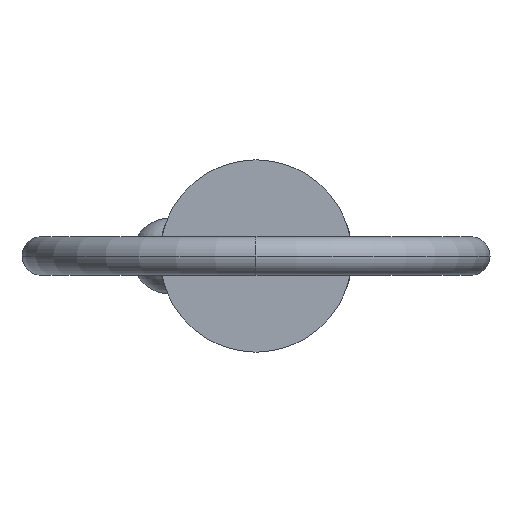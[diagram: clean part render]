
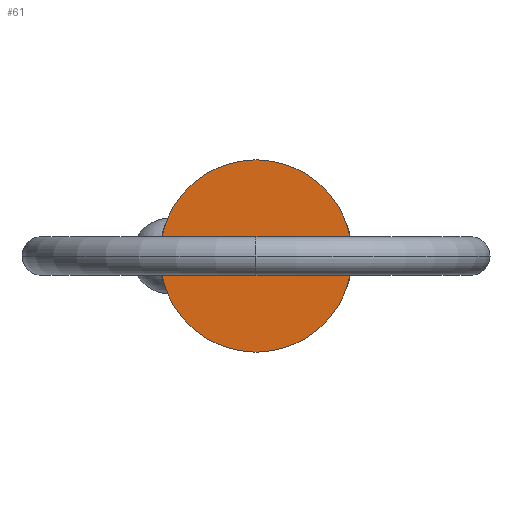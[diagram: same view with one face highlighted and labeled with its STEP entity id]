
A CAD part, left-side view. The second image highlights one B-rep face of the part: STEP entity #61.
In plain terms, the highlighted planar face has unit normal (-1, 0, 0).
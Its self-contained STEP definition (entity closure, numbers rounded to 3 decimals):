
#36 = DIRECTION ( 'NONE',  ( -1., 0., 0. ) ) ;
#61 = ADVANCED_FACE ( 'NONE', ( #854 ), #672, .T. ) ;
#64 = VERTEX_POINT ( 'NONE', #516 ) ;
#82 = ORIENTED_EDGE ( 'NONE', *, *, #703, .F. ) ;
#91 = AXIS2_PLACEMENT_3D ( 'NONE', #737, #36, #381 ) ;
#110 = EDGE_LOOP ( 'NONE', ( #692, #82 ) ) ;
#158 = CARTESIAN_POINT ( 'NONE',  ( 0., 0., 0. ) ) ;
#159 = CIRCLE ( 'NONE', #246, 7.11 ) ;
#165 = DIRECTION ( 'NONE',  ( 0., 0., -1. ) ) ;
#246 = AXIS2_PLACEMENT_3D ( 'NONE', #158, #836, #423 ) ;
#290 = CARTESIAN_POINT ( 'NONE',  ( 0., 0., -7.11 ) ) ;
#381 = DIRECTION ( 'NONE',  ( 0., 0., 1. ) ) ;
#420 = VERTEX_POINT ( 'NONE', #290 ) ;
#423 = DIRECTION ( 'NONE',  ( 0., 0., -1. ) ) ;
#427 = EDGE_CURVE ( 'NONE', #420, #64, #159, .T. ) ;
#516 = CARTESIAN_POINT ( 'NONE',  ( 0., 0., 7.11 ) ) ;
#672 = PLANE ( 'NONE',  #91 ) ;
#692 = ORIENTED_EDGE ( 'NONE', *, *, #427, .F. ) ;
#703 = EDGE_CURVE ( 'NONE', #64, #420, #873, .T. ) ;
#737 = CARTESIAN_POINT ( 'NONE',  ( 0., 0., 0. ) ) ;
#773 = AXIS2_PLACEMENT_3D ( 'NONE', #777, #780, #165 ) ;
#777 = CARTESIAN_POINT ( 'NONE',  ( 0., 0., 0. ) ) ;
#780 = DIRECTION ( 'NONE',  ( 1., 0., 0. ) ) ;
#836 = DIRECTION ( 'NONE',  ( 1., 0., 0. ) ) ;
#854 = FACE_OUTER_BOUND ( 'NONE', #110, .T. ) ;
#873 = CIRCLE ( 'NONE', #773, 7.11 ) ;
